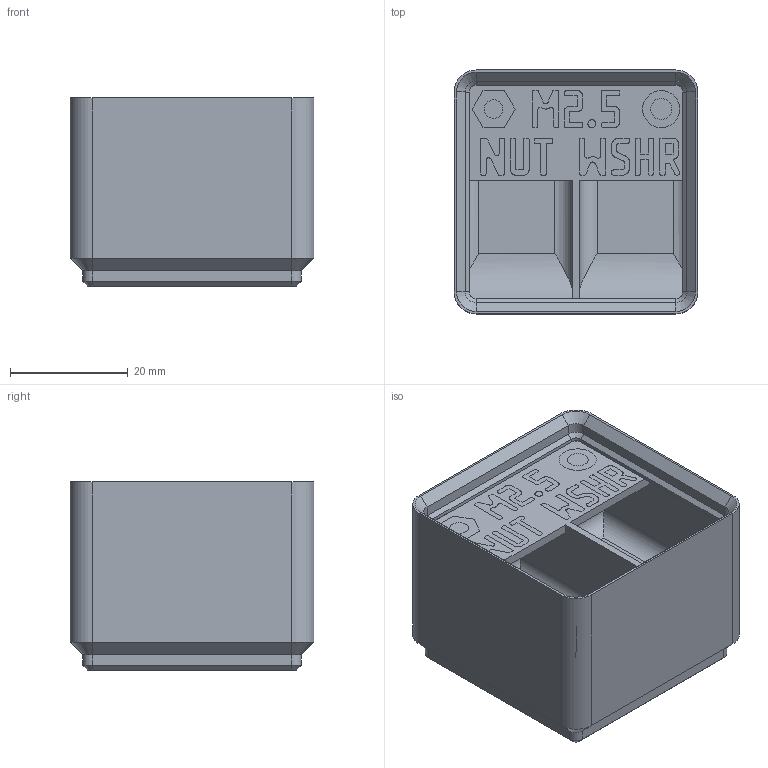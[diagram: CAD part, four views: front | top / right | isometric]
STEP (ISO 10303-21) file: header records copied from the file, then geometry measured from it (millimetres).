
FILE_DESCRIPTION(('Open CASCADE Model'),'2;1');
FILE_NAME('bin_M2.5_NUT-WSHR','2026-11-03T10:51:30',('Author'),( 'Open CASCADE'),'Open CASCADE STEP processor 8.0','build123d', 'Unknown');
FILE_SCHEMA(('AUTOMOTIVE_DESIGN { 1 0 10303 214 1 1 1 1 }'));
Length unit declared in the file: millimetre
Products named in the file (3): bin_M2.5_NUT-WSHR; M2.5_NUT-WSHR_body; M2.5_NUT-WSHR_label
Assembly tree (2 placements, depth 2):
  bin_M2.5_NUT-WSHR
    M2.5_NUT-WSHR_body
    M2.5_NUT-WSHR_label
Bounding box: 41.5 x 41.5 x 32 mm (x, y, z)
Volume: 30935.7 mm3; surface area: 12927.3 mm2
Topology: 14 solids, 14 shells, 2291 faces, 6678 edges, 4432 vertices
Faces by surface type: plane 2241, cylinder 30, cone 20
Full cylindrical faces by diameter (mm): 3.15 x2, 3.591 x2, 6.3 x2
Entity records: 161310 total; most frequent: CARTESIAN_POINT 27660, DIRECTION 24426, LINE 19674, VECTOR 19674, ORIENTED_EDGE 13356, PCURVE 13356, DEFINITIONAL_REPRESENTATION 13356, EDGE_CURVE 6678
